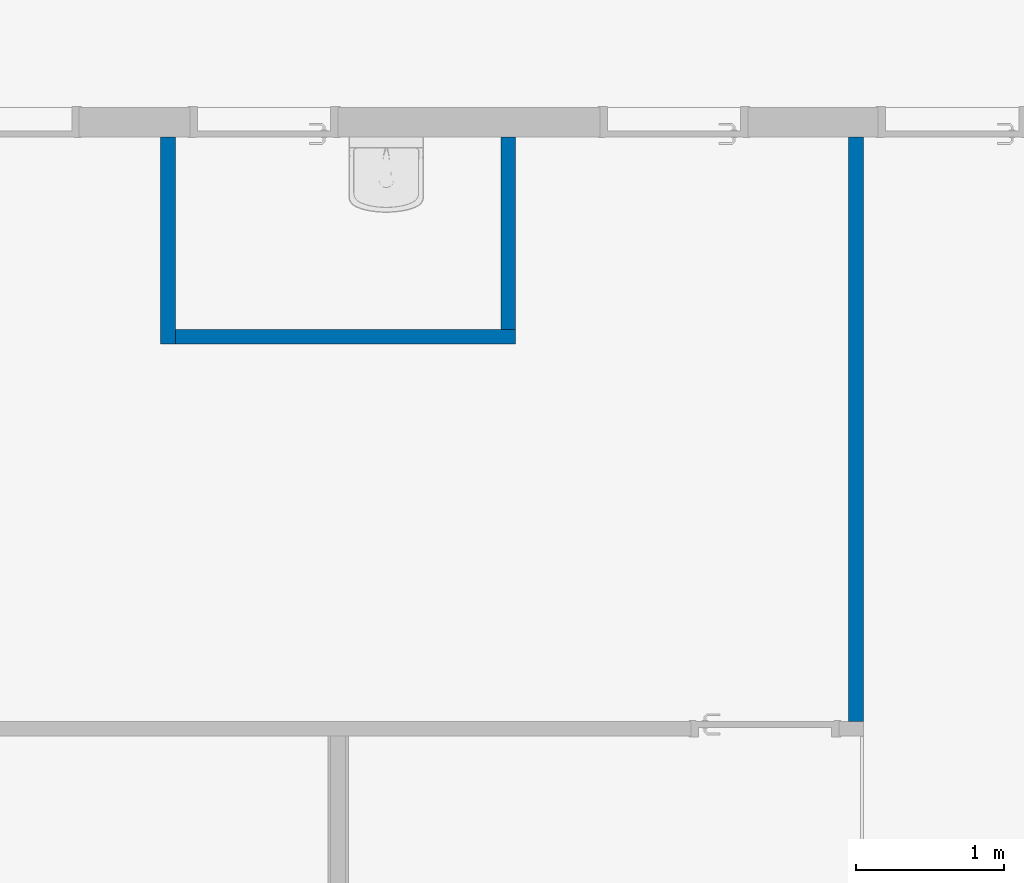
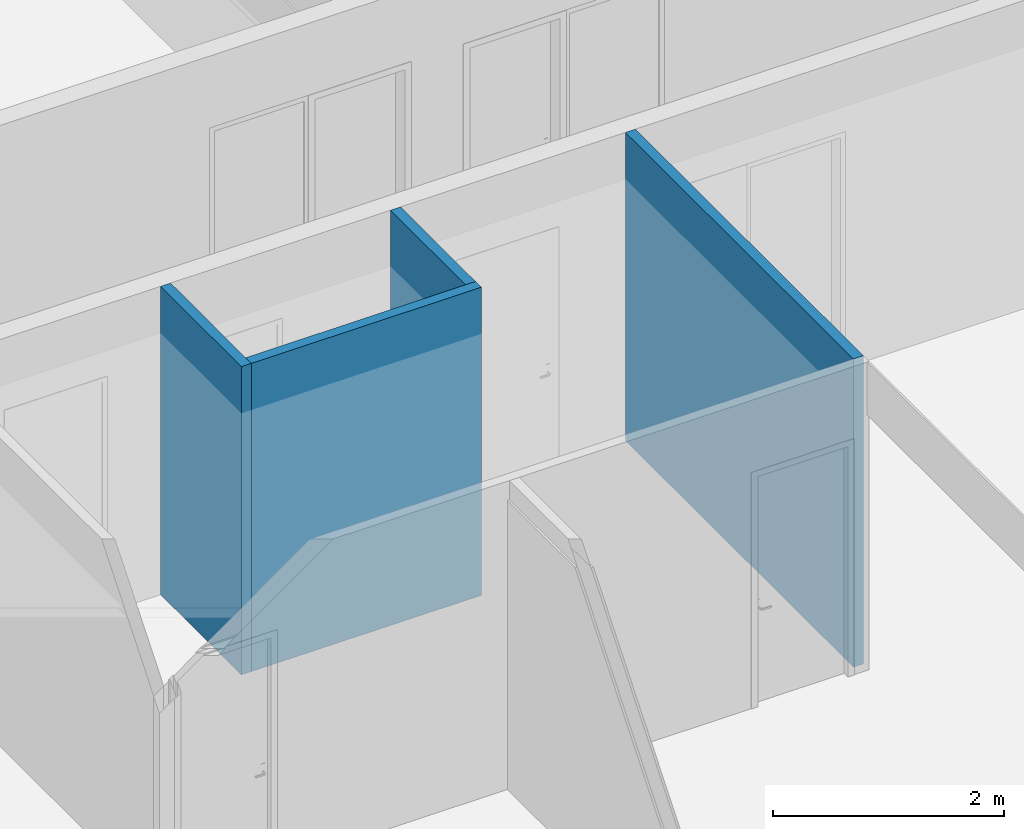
# One storey, part 36 of 87: 4 walls.
"""IFC2X3 building model written with IfcOpenShell, lengths in centimetres."""

import ifcopenshell
import ifcopenshell.guid

model = None  # the IFC model being written
_history = None  # IfcOwnerHistory: only IFC2X3 demands one
_inside = {}  # id of a spatial element -> (the spatial element, [elements in it])
_under = {}  # id of a project, library or spatial element -> (it, [spatial elements below it])
_declared = {}  # id of a project -> (the project, [libraries it declares])
_typed = {}  # id of a type object -> (the type object, [elements of that type])
_made_of = {}  # id of a material, layer set ... -> (it, [elements and type objects made of it])


def new_model(schema):
    """Start an empty IFC model of exactly this schema.

    Asked for "IFC4X3", IfcOpenShell would pick the latest addendum, in which some entities
    have other attributes; the version numbers below select the first issue.
    IFC2X3 requires an IfcOwnerHistory on every rooted entity: one is made here for all.
    """
    global model, _history
    if schema == "IFC4X3":
        model = ifcopenshell.file(schema_version=(4, 3, 0, 0))
    else:
        model = ifcopenshell.file(schema=schema)
    _inside.clear()
    _under.clear()
    _declared.clear()
    _typed.clear()
    _made_of.clear()
    _history = None
    if model.schema == "IFC2X3":
        org = make("IfcOrganization", Name="unknown")
        user = make(
            "IfcPersonAndOrganization",
            ThePerson=make("IfcPerson", FamilyName="unknown"),
            TheOrganization=org,
        )
        app = make(
            "IfcApplication",
            ApplicationDeveloper=org,
            Version="unknown",
            ApplicationFullName="unknown",
            ApplicationIdentifier="unknown",
        )
        _history = make(
            "IfcOwnerHistory",
            OwningUser=user,
            OwningApplication=app,
            ChangeAction="ADDED",
            CreationDate=0,
        )
    return model


def make(cls, **values):
    """One entity of the class cls with the attributes given. An attribute that is None is left unset."""
    return model.create_entity(
        cls, **{name: value for name, value in values.items() if value is not None}
    )


def entity(cls, *values):
    """Any entity or typed value of the class cls, its attributes in the order of the schema. None: left unset."""
    e = model.create_entity(cls)
    for i, value in enumerate(values):
        if value is not None:
            e[i] = value
    return e


def rooted(cls, **values):
    """An entity with a GlobalId (a new one), such as an element, a storey or a relation."""
    return make(cls, GlobalId=ifcopenshell.guid.new(), OwnerHistory=_history, **values)


def si_unit(unit_type, name, prefix=None):
    """IfcSIUnit, for example si_unit("LENGTHUNIT", "METRE", prefix="MILLI")."""
    return make("IfcSIUnit", UnitType=unit_type, Prefix=prefix, Name=name)


def converted_unit(unit_type, name, factor, base, dimensions=None, offset=None):
    """IfcConversionBasedUnit, such as the inch: factor (a typed value) times the base unit."""
    return make(
        "IfcConversionBasedUnit"
        if offset is None
        else "IfcConversionBasedUnitWithOffset",
        ConversionOffset=offset,
        Dimensions=None
        if dimensions is None
        else entity("IfcDimensionalExponents", *dimensions),
        UnitType=unit_type,
        Name=name,
        ConversionFactor=make(
            "IfcMeasureWithUnit", ValueComponent=factor, UnitComponent=base
        ),
    )


def derived_unit(unit_type, elements):
    """IfcDerivedUnit: a product of units, each with its exponent."""
    return make(
        "IfcDerivedUnit",
        Elements=[
            make("IfcDerivedUnitElement", Unit=unit, Exponent=power)
            for unit, power in elements
        ],
        UnitType=unit_type,
    )


def assignment(units):
    """IfcUnitAssignment: the units of a project."""
    return None if units is None else make("IfcUnitAssignment", Units=units)


def point(xyz):
    """IfcCartesianPoint."""
    return None if xyz is None else make("IfcCartesianPoint", Coordinates=xyz)


def direction(xyz):
    """IfcDirection."""
    return None if xyz is None else make("IfcDirection", DirectionRatios=xyz)


def frame(location, z_axis=None, x_axis=None):
    """IfcAxis2Placement3D, a coordinate frame: its origin and axes. An axis left out is left unset."""
    return make(
        "IfcAxis2Placement3D",
        Location=point(location),
        Axis=direction(z_axis),
        RefDirection=direction(x_axis),
    )


def frame_2d(location, x_axis=None):
    """IfcAxis2Placement2D, a coordinate frame in the plane: its origin and x axis."""
    return make(
        "IfcAxis2Placement2D", Location=point(location), RefDirection=direction(x_axis)
    )


def origin():
    """The frame at (0, 0, 0) with its axes left unset."""
    return frame((0.0, 0.0, 0.0))


def place(relative_to, where):
    """IfcLocalPlacement: puts the frame where relative to a parent placement (None: the world)."""
    return make(
        "IfcLocalPlacement", PlacementRelTo=relative_to, RelativePlacement=where
    )


def context(
    kind, dimensions, precision=None, world=None, true_north=None, identifier=None
):
    """IfcGeometricRepresentationContext, for example the 3D "Model" context."""
    return make(
        "IfcGeometricRepresentationContext",
        ContextIdentifier=identifier,
        ContextType=kind,
        CoordinateSpaceDimension=dimensions,
        Precision=precision,
        WorldCoordinateSystem=world,
        TrueNorth=true_north,
    )


def subcontext(parent, identifier, kind, view, scale=None):
    """IfcGeometricRepresentationSubContext, for example "Body" below "Model"."""
    return make(
        "IfcGeometricRepresentationSubContext",
        ContextIdentifier=identifier,
        ContextType=kind,
        ParentContext=parent,
        TargetScale=scale,
        TargetView=view,
    )


def project(units=None, contexts=None):
    """IfcProject with its units and contexts."""
    return rooted(
        "IfcProject",
        Name="project",
        RepresentationContexts=contexts,
        UnitsInContext=assignment(units),
    )


def spatial(cls, under=None, at=None, **own):
    """A site, building, storey or space (cls), placed at a placement, below another one or the project."""
    s = rooted(cls, ObjectPlacement=at, **own)
    if under is not None:
        _under.setdefault(under.id(), (under, []))[1].append(s)
    return s


def profile(cls, at=None, kind="AREA", **sizes):
    """A parametric profile (cls). Its sizes go by their IFC names, for example OverallWidth=200.0."""
    return make(cls, ProfileType=kind, Position=at, **sizes)


def rectangle(**sizes):
    """IfcRectangleProfileDef."""
    return profile("IfcRectangleProfileDef", **sizes)


def extrude(swept, where, along, depth):
    """IfcExtrudedAreaSolid: the profile swept, set in the frame where, extruded along a direction by depth."""
    return make(
        "IfcExtrudedAreaSolid",
        SweptArea=swept,
        Position=where,
        ExtrudedDirection=direction(along),
        Depth=depth,
    )


def shape(context_of_items, identifier, shape_type, items):
    """IfcShapeRepresentation: the items that make up one representation, for example the "Body"."""
    return make(
        "IfcShapeRepresentation",
        ContextOfItems=context_of_items,
        RepresentationIdentifier=identifier,
        RepresentationType=shape_type,
        Items=items,
    )


def material(Name=None, Category=None):
    """IfcMaterial."""
    return make("IfcMaterial", Name=Name, Category=Category)


def layer(
    of_material, thickness, ventilated=None, Name=None, Category=None, Priority=None
):
    """IfcMaterialLayer: one layer of a wall or slab, of a material (None: an air gap)."""
    return make(
        "IfcMaterialLayer",
        Material=of_material,
        LayerThickness=thickness,
        IsVentilated=ventilated,
        Name=Name,
        Category=Category,
        Priority=Priority,
    )


def layer_set(layers, Name=None):
    """IfcMaterialLayerSet."""
    return make("IfcMaterialLayerSet", MaterialLayers=layers, LayerSetName=Name)


def layer_usage(for_layer_set, set_direction, sense, offset, extent=None):
    """IfcMaterialLayerSetUsage: how a layer set lies in its element."""
    return make(
        "IfcMaterialLayerSetUsage",
        ForLayerSet=for_layer_set,
        LayerSetDirection=set_direction,
        DirectionSense=sense,
        OffsetFromReferenceLine=offset,
        ReferenceExtent=extent,
    )


def made_of(thing, what):
    """Note that an element or type object is made of a material, layer set ...; save() writes the relation."""
    if what is not None:
        _made_of.setdefault(what.id(), (what, []))[1].append(thing)
    return thing


def type_object(cls, material=None, **own):
    """A type object (cls), such as IfcWallType, which elements share."""
    return made_of(rooted(cls, **own), material)


def element(
    cls,
    number,
    at=None,
    inside=None,
    cuts=None,
    type_object=None,
    material=None,
    context=None,
    identifier="Body",
    shape_type=None,
    held_by="IfcProductDefinitionShape",
    body=None,
    shapes=None,
    **own,
):
    """One element of the class cls, such as IfcWall. Its Tag is "e" and its number.

    at: its placement. inside: the storey or other place that contains it. cuts: it is an
    opening in that element (IfcRelVoidsElement). A single representation is given by context,
    identifier, shape_type and body (its items); several are given by shapes. held_by: the class
    of the entity that holds the representations. save() writes the other relations.
    """
    e = rooted(cls, Tag="e%d" % number, ObjectPlacement=at, **own)
    if body is not None:
        shapes = [shape(context, identifier, shape_type, body)]
    if shapes is not None:
        e.Representation = make(held_by, Representations=shapes)
    if inside is not None:
        _inside.setdefault(inside.id(), (inside, []))[1].append(e)
    if cuts is not None:
        rooted(
            "IfcRelVoidsElement", RelatingBuildingElement=cuts, RelatedOpeningElement=e
        )
    if type_object is not None:
        _typed.setdefault(type_object.id(), (type_object, []))[1].append(e)
    return made_of(e, material)


def aggregate(whole, parts):
    """IfcRelAggregates: a whole, such as a stair, and the parts it consists of."""
    return rooted("IfcRelAggregates", RelatingObject=whole, RelatedObjects=parts)


def save(model, path):
    """Write the relations noted so far, then the file.

    IfcRelAggregates (storeys below a building ...), IfcRelContainedInSpatialStructure (elements
    in a storey), IfcRelDefinesByType, IfcRelAssociatesMaterial and IfcRelDeclares: one each for
    every whole, place, type object, material and project.
    """
    for whole, parts in _under.values():
        aggregate(whole, parts)
    for where, things in _inside.values():
        rooted(
            "IfcRelContainedInSpatialStructure",
            RelatedElements=things,
            RelatingStructure=where,
        )
    for kind, things in _typed.values():
        rooted("IfcRelDefinesByType", RelatedObjects=things, RelatingType=kind)
    for what, things in _made_of.values():
        rooted("IfcRelAssociatesMaterial", RelatedObjects=things, RelatingMaterial=what)
    for by, libraries in _declared.values():
        rooted("IfcRelDeclares", RelatingContext=by, RelatedDefinitions=libraries)
    model.write(path)


model = new_model("IFC2X3")

# Units and contexts
model_context = context("Model", 3, precision=0.001, world=origin(), true_north=direction((6.12303176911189e-17, 1.0)))
body_context = subcontext(model_context, "Body", "Model", "MODEL_VIEW")
ifc_project = project(units=[si_unit("LENGTHUNIT", "METRE", prefix="CENTI"), si_unit("AREAUNIT", "SQUARE_METRE"), si_unit("VOLUMEUNIT", "CUBIC_METRE"), converted_unit("PLANEANGLEUNIT", "DEGREE", entity("IfcRatioMeasure", 0.0174532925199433), si_unit("PLANEANGLEUNIT", "RADIAN"), dimensions=[0, 0, 0, 0, 0, 0, 0]), si_unit("MASSUNIT", "GRAM", prefix="KILO"), derived_unit("MASSDENSITYUNIT", [(si_unit("MASSUNIT", "GRAM", prefix="KILO"), 1), (si_unit("LENGTHUNIT", "METRE"), -3)]), si_unit("TIMEUNIT", "SECOND"), si_unit("FREQUENCYUNIT", "HERTZ"), si_unit("THERMODYNAMICTEMPERATUREUNIT", "DEGREE_CELSIUS"), derived_unit("THERMALTRANSMITTANCEUNIT", [(si_unit("MASSUNIT", "GRAM", prefix="KILO"), 1), (si_unit("THERMODYNAMICTEMPERATUREUNIT", "KELVIN"), -1), (si_unit("TIMEUNIT", "SECOND"), -3)]), derived_unit("VOLUMETRICFLOWRATEUNIT", [(si_unit("LENGTHUNIT", "METRE"), 3), (si_unit("TIMEUNIT", "SECOND"), -1)]), si_unit("ELECTRICCURRENTUNIT", "AMPERE"), si_unit("ELECTRICVOLTAGEUNIT", "VOLT"), si_unit("POWERUNIT", "WATT"), si_unit("FORCEUNIT", "NEWTON", prefix="KILO"), si_unit("ILLUMINANCEUNIT", "LUX"), si_unit("LUMINOUSFLUXUNIT", "LUMEN"), si_unit("LUMINOUSINTENSITYUNIT", "CANDELA"), derived_unit("USERDEFINED", [(si_unit("MASSUNIT", "GRAM", prefix="KILO"), -1), (si_unit("LENGTHUNIT", "METRE"), -2), (si_unit("TIMEUNIT", "SECOND"), 3), (si_unit("LUMINOUSFLUXUNIT", "LUMEN"), 1)]), derived_unit("LINEARVELOCITYUNIT", [(si_unit("LENGTHUNIT", "METRE"), 1), (si_unit("TIMEUNIT", "SECOND"), -1)]), si_unit("PRESSUREUNIT", "PASCAL"), derived_unit("USERDEFINED", [(si_unit("LENGTHUNIT", "METRE"), -2), (si_unit("MASSUNIT", "GRAM", prefix="KILO"), 1), (si_unit("TIMEUNIT", "SECOND"), -2)])], contexts=[model_context])

# Site, building, storey
site_placement = place(None, frame((-2781.94577612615, 7442.24238424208, 0.0)))
site = spatial("IfcSite", under=ifc_project, at=site_placement, Name="Default", CompositionType="ELEMENT")
building_placement = place(site_placement, origin())
building = spatial("IfcBuilding", under=site, at=building_placement, CompositionType="ELEMENT")
storey_placement = place(building_placement, frame((0.0, 0.0, 774.0)))
storey = spatial("IfcBuildingStorey", under=building, at=storey_placement, Name="TR - N02 - ARCH", CompositionType="ELEMENT", Elevation=774.0)

# Walls
ifc_material_1 = material(Name="01 - Enduit/Plâtre")
ifc_layer_1 = layer(ifc_material_1, 1.3)
ifc_material_2 = material(Name="00 - Isolant")
ifc_layer_2 = layer(ifc_material_2, 7.4)
ifc_layer_3 = layer(ifc_material_1, 1.3)
ifc_layer_set = layer_set([ifc_layer_1, ifc_layer_2, ifc_layer_3], Name="Mur de base:06 - cloisons - Ba13 10cm")
ifc_layer_usage_1 = layer_usage(ifc_layer_set, "AXIS2", "POSITIVE", -5.0)
wall_type = type_object("IfcWallType", Name="Mur de base:06 - cloisons - Ba13 10cm", PredefinedType="STANDARD", material=ifc_layer_set)
wall_1_placement = place(storey_placement, frame((-6029.49987760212, -1110.0, 0.0), z_axis=(0.0, 0.0, 1.0), x_axis=(0.0, -1.0, 0.0)))
element("IfcWallStandardCase", 1, at=wall_1_placement, inside=storey, type_object=wall_type, material=ifc_layer_usage_1, Name="Mur de base:06 - cloisons - Ba13 10cm", ObjectType="Mur de base:06 - cloisons - Ba13 10cm", context=body_context, shape_type="SweptSolid", body=[
    extrude(rectangle(XDim=395.039516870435, YDim=9.99999999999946, at=frame_2d((197.519758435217, -1.02140518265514e-14), x_axis=(-1.0, 0.0))), origin(), (0.0, 0.0, 1.0), 326.0),
])
ifc_layer_usage_2 = layer_usage(ifc_layer_set, "AXIS2", "NEGATIVE", 5.0)
wall_2_placement = place(storey_placement, frame((-6494.49987760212, -1110.0, 0.0), z_axis=(0.0, 0.0, 1.0), x_axis=(0.0, -1.0, 0.0)))
element("IfcWallStandardCase", 2, at=wall_2_placement, inside=storey, type_object=wall_type, material=ifc_layer_usage_2, Name="Mur de base:06 - cloisons - Ba13 10cm", ObjectType="Mur de base:06 - cloisons - Ba13 10cm", context=body_context, shape_type="SweptSolid", body=[
    extrude(rectangle(XDim=140.000000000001, YDim=9.99999999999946, at=frame_2d((70.0000000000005, 0.0), x_axis=(-1.0, 0.0))), origin(), (0.0, 0.0, 1.0), 326.0),
])
ifc_layer_usage_3 = layer_usage(ifc_layer_set, "AXIS2", "NEGATIVE", 5.0)
wall_3_placement = place(storey_placement, frame((-6489.49987760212, -1245.0, 0.0)))
element("IfcWallStandardCase", 3, at=wall_3_placement, inside=storey, type_object=wall_type, material=ifc_layer_usage_3, Name="Mur de base:06 - cloisons - Ba13 10cm", ObjectType="Mur de base:06 - cloisons - Ba13 10cm", context=body_context, shape_type="SweptSolid", body=[
    extrude(rectangle(XDim=230.000000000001, YDim=9.99999999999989, at=frame_2d((115.0, 0.0), x_axis=(-1.0, 0.0))), origin(), (0.0, 0.0, 1.0), 326.0),
])
ifc_layer_usage_4 = layer_usage(ifc_layer_set, "AXIS2", "NEGATIVE", 5.0)
wall_4_placement = place(storey_placement, frame((-6264.49987760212, -1240.0, 0.0), z_axis=(0.0, 0.0, 1.0), x_axis=(0.0, 1.0, 0.0)))
element("IfcWallStandardCase", 4, at=wall_4_placement, inside=storey, type_object=wall_type, material=ifc_layer_usage_4, Name="Mur de base:06 - cloisons - Ba13 10cm", ObjectType="Mur de base:06 - cloisons - Ba13 10cm", context=body_context, shape_type="SweptSolid", body=[
    extrude(rectangle(XDim=130.0, YDim=9.99999999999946, at=frame_2d((65.0000000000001, 0.0), x_axis=(-1.0, 0.0))), origin(), (0.0, 0.0, 1.0), 326.0),
])

save(model, "model.ifc")
